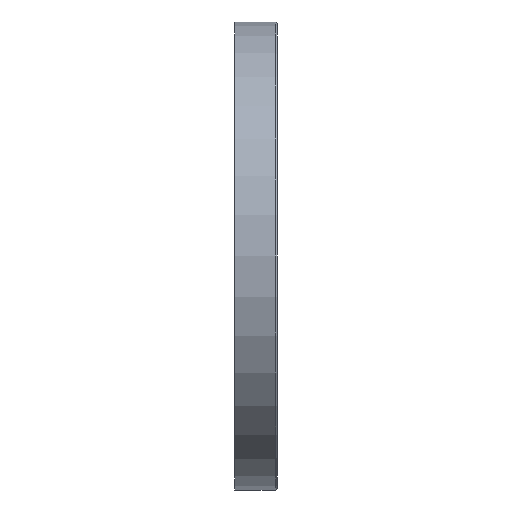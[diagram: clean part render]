
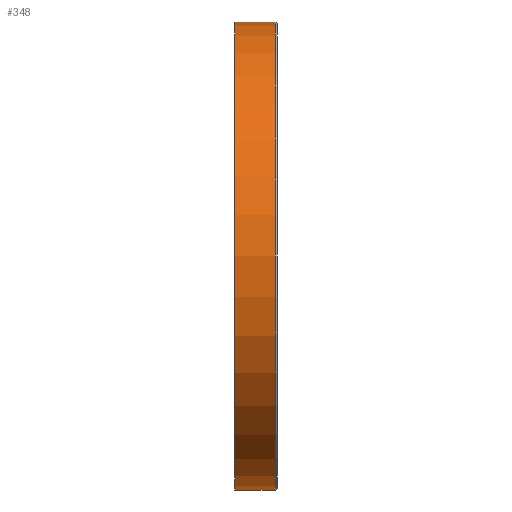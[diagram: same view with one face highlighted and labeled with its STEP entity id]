
A CAD part, left-side view. The second image highlights one B-rep face of the part: STEP entity #348.
In plain terms, the highlighted cylindrical face has radius 22 mm (diameter 44 mm), a partial arc.
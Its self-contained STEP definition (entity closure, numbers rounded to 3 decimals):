
#40 = ORIENTED_EDGE ( 'NONE', *, *, #7569, .F. ) ;
#172 = CARTESIAN_POINT ( 'NONE',  ( 0., 4., 22. ) ) ;
#348 = ADVANCED_FACE ( 'NONE', ( #3345 ), #2763, .T. ) ;
#413 = CARTESIAN_POINT ( 'NONE',  ( 0., 0.2, 0. ) ) ;
#511 = CARTESIAN_POINT ( 'NONE',  ( 0., 4., 22. ) ) ;
#1223 = EDGE_CURVE ( 'NONE', #2738, #2817, #1322, .T. ) ;
#1322 = LINE ( 'NONE', #511, #2530 ) ;
#1721 = CARTESIAN_POINT ( 'NONE',  ( 0., 4., 0. ) ) ;
#1764 = DIRECTION ( 'NONE',  ( 0., 1., 0. ) ) ;
#1974 = CARTESIAN_POINT ( 'NONE',  ( 0., 4., -22. ) ) ;
#2061 = EDGE_CURVE ( 'NONE', #5933, #7337, #6447, .T. ) ;
#2064 = DIRECTION ( 'NONE',  ( 0., -1., 0. ) ) ;
#2088 = ORIENTED_EDGE ( 'NONE', *, *, #3895, .T. ) ;
#2338 = DIRECTION ( 'NONE',  ( 0., 0., 1. ) ) ;
#2476 = CIRCLE ( 'NONE', #8075, 22. ) ;
#2530 = VECTOR ( 'NONE', #3850, 1000. ) ;
#2738 = VERTEX_POINT ( 'NONE', #172 ) ;
#2763 = CYLINDRICAL_SURFACE ( 'NONE', #7416, 22. ) ;
#2817 = VERTEX_POINT ( 'NONE', #6662 ) ;
#2841 = CARTESIAN_POINT ( 'NONE',  ( 0., 4., 0. ) ) ;
#2937 = DIRECTION ( 'NONE',  ( 0., 1., 0. ) ) ;
#3078 = EDGE_LOOP ( 'NONE', ( #6046, #40, #6489, #2088 ) ) ;
#3345 = FACE_OUTER_BOUND ( 'NONE', #3078, .T. ) ;
#3621 = CARTESIAN_POINT ( 'NONE',  ( 0., 0.2, -22. ) ) ;
#3850 = DIRECTION ( 'NONE',  ( 0., -1., 0. ) ) ;
#3895 = EDGE_CURVE ( 'NONE', #7337, #2817, #2476, .T. ) ;
#4149 = CARTESIAN_POINT ( 'NONE',  ( 0., 4., -22. ) ) ;
#5318 = DIRECTION ( 'NONE',  ( 0., 0., -1. ) ) ;
#5506 = VECTOR ( 'NONE', #5778, 1000. ) ;
#5778 = DIRECTION ( 'NONE',  ( 0., -1., 0. ) ) ;
#5933 = VERTEX_POINT ( 'NONE', #4149 ) ;
#6046 = ORIENTED_EDGE ( 'NONE', *, *, #1223, .F. ) ;
#6447 = LINE ( 'NONE', #1974, #5506 ) ;
#6489 = ORIENTED_EDGE ( 'NONE', *, *, #2061, .T. ) ;
#6662 = CARTESIAN_POINT ( 'NONE',  ( 0., 0.2, 22. ) ) ;
#6696 = DIRECTION ( 'NONE',  ( 0., 0., 1. ) ) ;
#7337 = VERTEX_POINT ( 'NONE', #3621 ) ;
#7388 = CIRCLE ( 'NONE', #7655, 22. ) ;
#7416 = AXIS2_PLACEMENT_3D ( 'NONE', #2841, #2064, #5318 ) ;
#7569 = EDGE_CURVE ( 'NONE', #5933, #2738, #7388, .T. ) ;
#7655 = AXIS2_PLACEMENT_3D ( 'NONE', #1721, #1764, #2338 ) ;
#8075 = AXIS2_PLACEMENT_3D ( 'NONE', #413, #2937, #6696 ) ;
